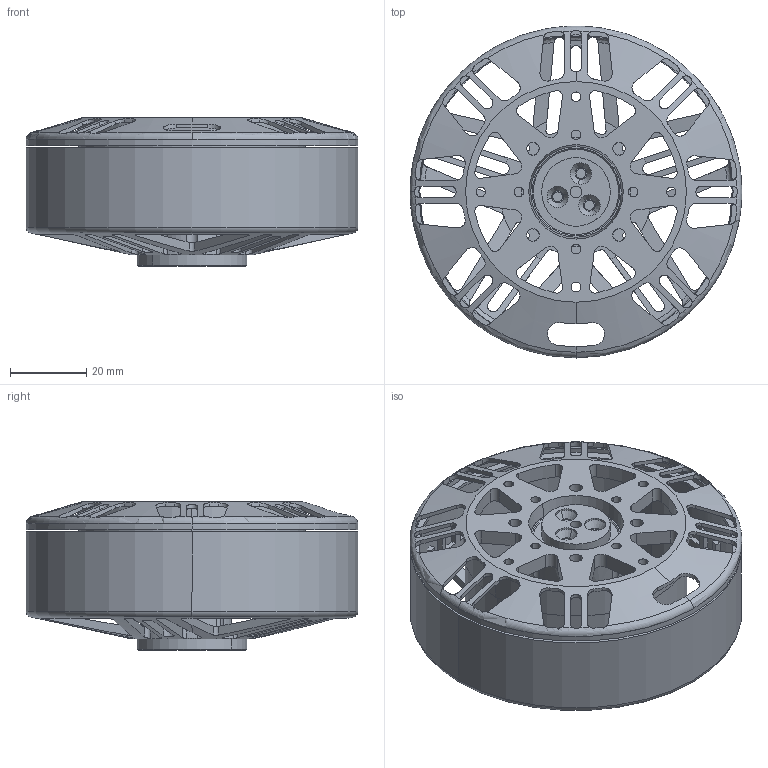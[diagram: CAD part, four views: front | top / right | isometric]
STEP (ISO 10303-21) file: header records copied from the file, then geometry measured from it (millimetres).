
FILE_DESCRIPTION((''),'2;1');
FILE_NAME('MAD-8116-EEE','2024-07-11T15:19:59',('Administrator'),(''),'CREO PARAMETRIC BY PTC INC, 2020053','CREO PARAMETRIC BY PTC INC, 2020053','');
FILE_SCHEMA(('CONFIG_CONTROL_DESIGN'));
Length unit declared in the file: millimetre
Products named in the file (1): MAD-8116-EEE
Bounding box: 87.2 x 87.2 x 39 mm (x, y, z)
Volume: 43739.9 mm3; surface area: 47066.6 mm2
Topology: 1 solids, 7 shells, 775 faces, 2535 edges, 1725 vertices
Faces by surface type: cylinder 335, plane 318, cone 101, torus 21
Entity records: 30915 total; most frequent: CARTESIAN_POINT 8652, ORIENTED_EDGE 5070, DIRECTION 4374, EDGE_CURVE 2535, AXIS2_PLACEMENT_3D 1726, VERTEX_POINT 1725, CIRCLE 951, VECTOR 922
